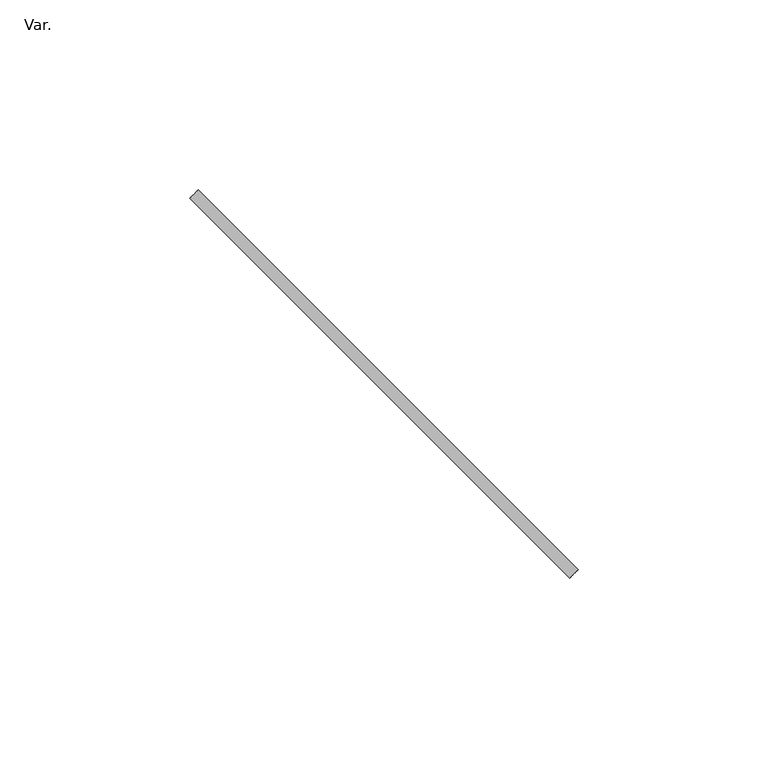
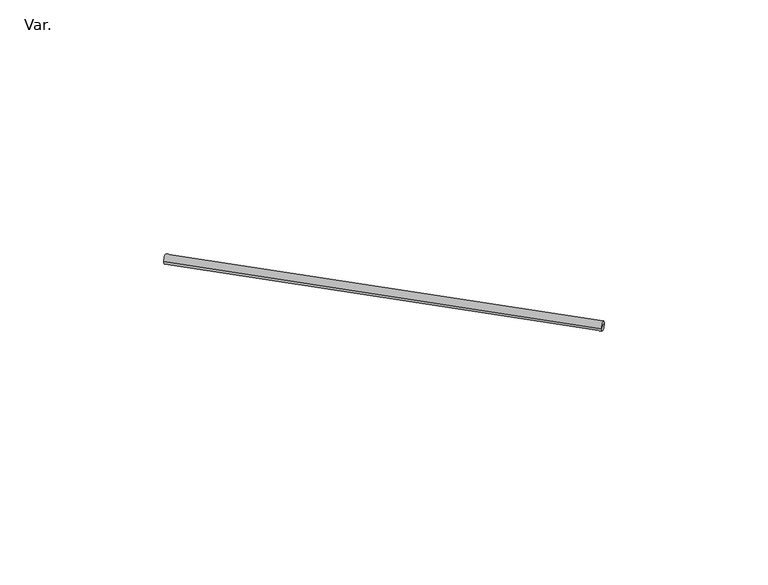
"""IFC4 building model written with IfcOpenShell, lengths in millimetres: pipe fitting geometry, PAVCO_PVC QS Guaya Metálica : Var.."""

from ifc_helpers import new_model, si_unit, frame, origin, place, context, project, spatial, circle_curve, source, transform, mapped, element, save
from ifc_brep_helpers import plane_surface, cylinder_surface, advanced_brep


def var_ad946d41(model_context):
    return source(origin(), model_context, "Body", "AdvancedBrep", [
        advanced_brep(
        [(101.1172287, -98.8827713, 0.0), (100.0, -100.0, 0.0), (98.8827713, -101.1172287, 0.0), (1.1172287, 1.1172287, 0.0), (-1.1172287, -1.1172287, 0.0), (0.0, 0.0, 0.0)],
        [
            (0, 1),
            (1, 2),
            (2, 0, circle_curve(frame((100.0, -100.0, 0.0), z_axis=(0.7071067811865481, -0.7071067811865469, 0.0), x_axis=(-0.707106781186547, -0.7071067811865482, 0.0)), 1.58)),
            (0, 2, circle_curve(frame((100.0, -100.0, 0.0), z_axis=(0.7071067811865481, -0.7071067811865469, 0.0), x_axis=(-0.707106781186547, -0.7071067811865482, 0.0)), 1.58)),
            (3, 0),
            (2, 4),
            (4, 3, circle_curve(frame((0.0, 0.0, 0.0), z_axis=(0.7071067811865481, -0.7071067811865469, 0.0), x_axis=(-0.707106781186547, -0.7071067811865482, 0.0)), 1.58)),
            (3, 4, circle_curve(frame((0.0, 0.0, 0.0), z_axis=(0.7071067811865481, -0.7071067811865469, 0.0), x_axis=(-0.707106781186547, -0.7071067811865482, 0.0)), 1.58)),
            (5, 3),
            (4, 5),
        ],
        [
            plane_surface(frame((100.0, -100.0, 0.0), z_axis=(0.7071067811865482, -0.707106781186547, 0.0), x_axis=(-0.707106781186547, -0.7071067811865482, 0.0))),
            cylinder_surface(frame((0.0, 0.0, 0.0), z_axis=(-0.7071067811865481, 0.7071067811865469, 0.0), x_axis=(-0.707106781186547, -0.7071067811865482, 0.0)), 1.58),
            plane_surface(frame((0.0, 0.0, 0.0), z_axis=(-0.7071067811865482, 0.707106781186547, 0.0), x_axis=(-0.707106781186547, -0.7071067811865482, 0.0))),
        ],
        [
            (0, [[1, 2, 3]]),
            (0, [[-2, -1, 4]]),
            (1, [[5, -3, 6, 7]]),
            (1, [[-6, -4, -5, 8]]),
            (2, [[9, -7, 10]]),
            (2, [[-10, -8, -9]]),
        ],
    ),
    ])


if __name__ == "__main__":
    model = new_model("IFC4")
    model_context = context("Model", 3, world=origin())
    ifc_project = project(units=[si_unit("LENGTHUNIT", "METRE", prefix="MILLI")], contexts=[model_context])
    site = spatial("IfcSite", under=ifc_project)
    building = spatial("IfcBuilding", under=site)
    placement = place(None, origin())
    var_shape = var_ad946d41(model_context)
    element("IfcPipeFitting", 1, ObjectType="PAVCO_PVC QS Guaya Metálica : Var.", at=placement, inside=building, context=model_context, shape_type="MappedRepresentation", body=[
        mapped(var_shape, transform((0.0, 0.0, 0.0), x_axis=(1.0, 0.0, 0.0), y_axis=(0.0, 1.0, 0.0), z_axis=(0.0, 0.0, 1.0))),
    ])
    save(model, "model.ifc")
